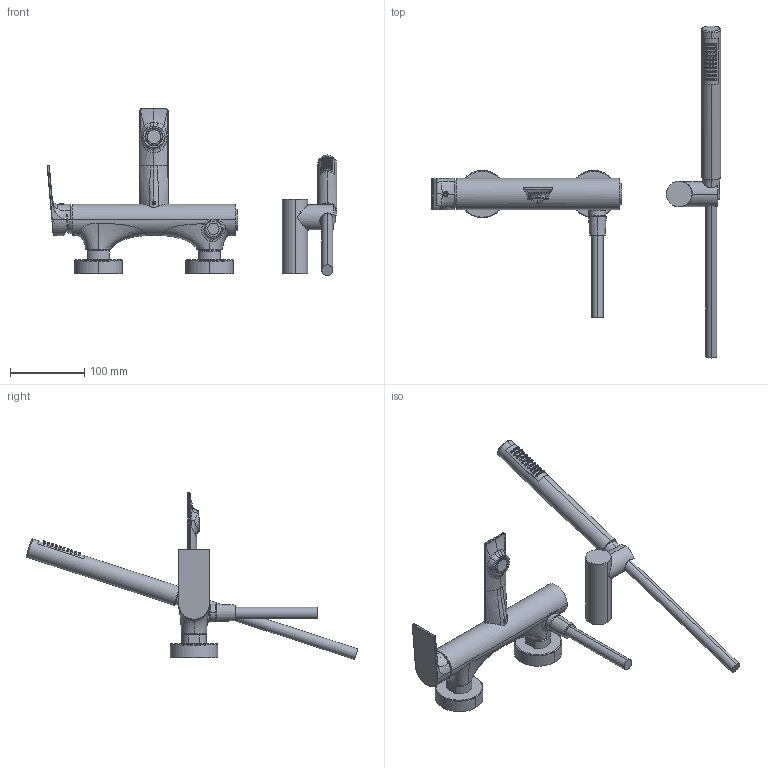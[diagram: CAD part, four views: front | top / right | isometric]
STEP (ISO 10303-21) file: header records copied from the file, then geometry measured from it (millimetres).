
FILE_DESCRIPTION((''),'2;1');
FILE_NAME('78002_SW0001','2024-09-12T09:27:33',('carloff'),(''),'CREO PARAMETRIC BY PTC INC, 2022014','CREO PARAMETRIC BY PTC INC, 2022014','');
FILE_SCHEMA(('CONFIG_CONTROL_DESIGN'));
Length unit declared in the file: millimetre
Products named in the file (1): 78002_SW0001
Bounding box: 390.12 x 446.7 x 224.72 mm (x, y, z)
Volume: 549966.9 mm3; surface area: 220388.9 mm2
Topology: 6 solids, 6 shells, 1191 faces, 2790 edges, 1689 vertices
Faces by surface type: cylinder 432, bspline 326, plane 199, cone 110, torus 97, sphere 23, extrusion 4
Entity records: 93586 total; most frequent: CARTESIAN_POINT 69052, ORIENTED_EDGE 5564, DIRECTION 4379, EDGE_CURVE 2782, AXIS2_PLACEMENT_3D 1821, VERTEX_POINT 1689, EDGE_LOOP 1289, FACE_OUTER_BOUND 1191
